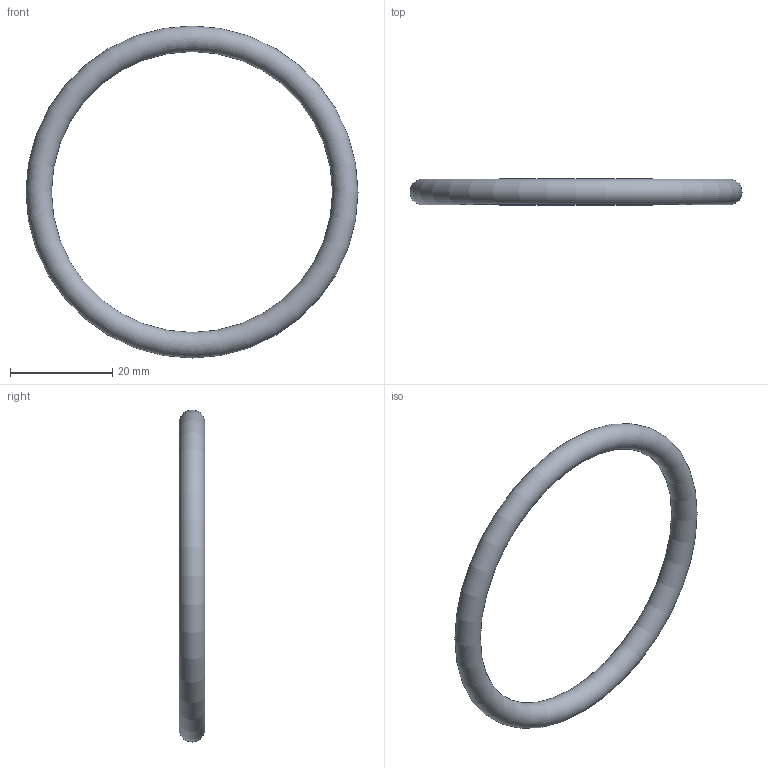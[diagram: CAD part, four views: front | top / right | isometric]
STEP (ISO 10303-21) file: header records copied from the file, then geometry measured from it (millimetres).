
FILE_DESCRIPTION( ( 'STEP AP203' ), '1' );
FILE_NAME( 'C:/Temp/Ganter_Step_05_03_2020/data/3_5/or638/O-Ring OR638-55.00-5.00-70.stp', '2020-03-12T13:44:34', ( 'License CC BY-ND 4.0' ), ( 'CADENAS' ), ' ', 'PARTsolutions', ' ' );
FILE_SCHEMA( ( 'CONFIG_CONTROL_DESIGN' ) );
Length unit declared in the file: millimetre
Products named in the file (1): _O-Ring OR638-55.00-5.00-70
Bounding box: 65 x 5 x 65 mm (x, y, z)
Volume: 3701.1 mm3; surface area: 2960.9 mm2
Topology: 1 solids, 1 shells, 1 faces, 2 edges, 1 vertices
Faces by surface type: torus 1
Entity records: 62 total; most frequent: CC_DESIGN_PERSON_AND_ORGANIZATION_ASSIGNMENT 5, PERSON_AND_ORGANIZATION_ROLE 4, DIRECTION 4, CARTESIAN_POINT 3, DATE_TIME_ROLE 2, CC_DESIGN_DATE_AND_TIME_ASSIGNMENT 2, AXIS2_PLACEMENT_3D 2, DIMENSIONAL_EXPONENTS 2
